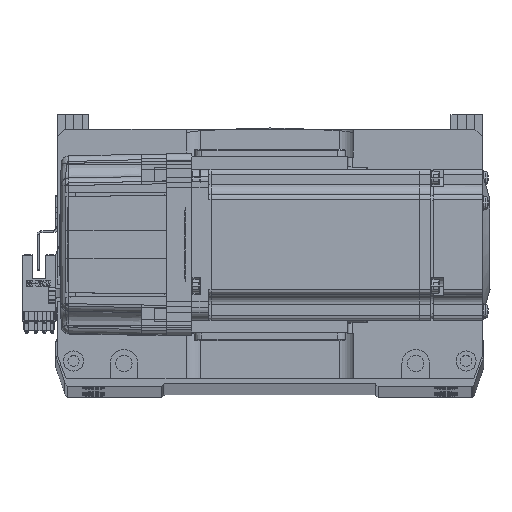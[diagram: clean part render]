
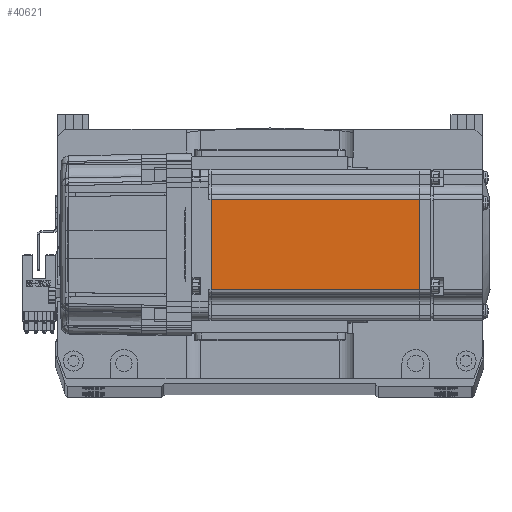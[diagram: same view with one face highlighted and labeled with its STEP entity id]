
A CAD part, top view. The second image highlights one B-rep face of the part: STEP entity #40621.
In plain terms, the highlighted planar face has unit normal (0, 0, 1) as drawn and (0, -1, 0) by its records, which use the part's own axes.
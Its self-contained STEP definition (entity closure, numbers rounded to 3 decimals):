
#196 = PLANE ( 'NONE',  #44173 ) ;
#4356 = ORIENTED_EDGE ( 'NONE', *, *, #68501, .T. ) ;
#8752 = CARTESIAN_POINT ( 'NONE',  ( -90.45, -30., -18. ) ) ;
#9312 = CARTESIAN_POINT ( 'NONE',  ( -6.5, -30., 18. ) ) ;
#11297 = ORIENTED_EDGE ( 'NONE', *, *, #22486, .T. ) ;
#12050 = DIRECTION ( 'NONE',  ( 1., 0., 0. ) ) ;
#18292 = EDGE_CURVE ( 'NONE', #43006, #29165, #33543, .T. ) ;
#19580 = DIRECTION ( 'NONE',  ( 0., 0., 1. ) ) ;
#22486 = EDGE_CURVE ( 'NONE', #61590, #43006, #42624, .T. ) ;
#27550 = DIRECTION ( 'NONE',  ( 0., -1., 0. ) ) ;
#27797 = DIRECTION ( 'NONE',  ( 0., 0., -1. ) ) ;
#29165 = VERTEX_POINT ( 'NONE', #68447 ) ;
#31488 = ORIENTED_EDGE ( 'NONE', *, *, #68022, .T. ) ;
#33543 = LINE ( 'NONE', #61469, #63694 ) ;
#34020 = VERTEX_POINT ( 'NONE', #56394 ) ;
#34618 = VECTOR ( 'NONE', #63818, 1000. ) ;
#37672 = CARTESIAN_POINT ( 'NONE',  ( -6.5, -30., -25. ) ) ;
#37964 = CARTESIAN_POINT ( 'NONE',  ( -90.45, -30., -25. ) ) ;
#38698 = FACE_OUTER_BOUND ( 'NONE', #46154, .T. ) ;
#38852 = LINE ( 'NONE', #37964, #40506 ) ;
#39447 = CARTESIAN_POINT ( 'NONE',  ( -6.5, -30., -18. ) ) ;
#40506 = VECTOR ( 'NONE', #54064, 1000. ) ;
#40621 = ADVANCED_FACE ( 'NONE', ( #38698 ), #196, .T. ) ;
#42624 = LINE ( 'NONE', #39447, #55190 ) ;
#43006 = VERTEX_POINT ( 'NONE', #56277 ) ;
#44173 = AXIS2_PLACEMENT_3D ( 'NONE', #37672, #27550, #27797 ) ;
#46154 = EDGE_LOOP ( 'NONE', ( #50600, #4356, #31488, #11297 ) ) ;
#48008 = LINE ( 'NONE', #9312, #34618 ) ;
#50600 = ORIENTED_EDGE ( 'NONE', *, *, #18292, .T. ) ;
#54064 = DIRECTION ( 'NONE',  ( 0., 0., -1. ) ) ;
#55190 = VECTOR ( 'NONE', #12050, 1000. ) ;
#56277 = CARTESIAN_POINT ( 'NONE',  ( -7.75, -30., -18. ) ) ;
#56394 = CARTESIAN_POINT ( 'NONE',  ( -90.45, -30., 18. ) ) ;
#61469 = CARTESIAN_POINT ( 'NONE',  ( -7.75, -30., -25. ) ) ;
#61590 = VERTEX_POINT ( 'NONE', #8752 ) ;
#63694 = VECTOR ( 'NONE', #19580, 1000. ) ;
#63818 = DIRECTION ( 'NONE',  ( -1., 0., 0. ) ) ;
#68022 = EDGE_CURVE ( 'NONE', #34020, #61590, #38852, .T. ) ;
#68447 = CARTESIAN_POINT ( 'NONE',  ( -7.75, -30., 18. ) ) ;
#68501 = EDGE_CURVE ( 'NONE', #29165, #34020, #48008, .T. ) ;
